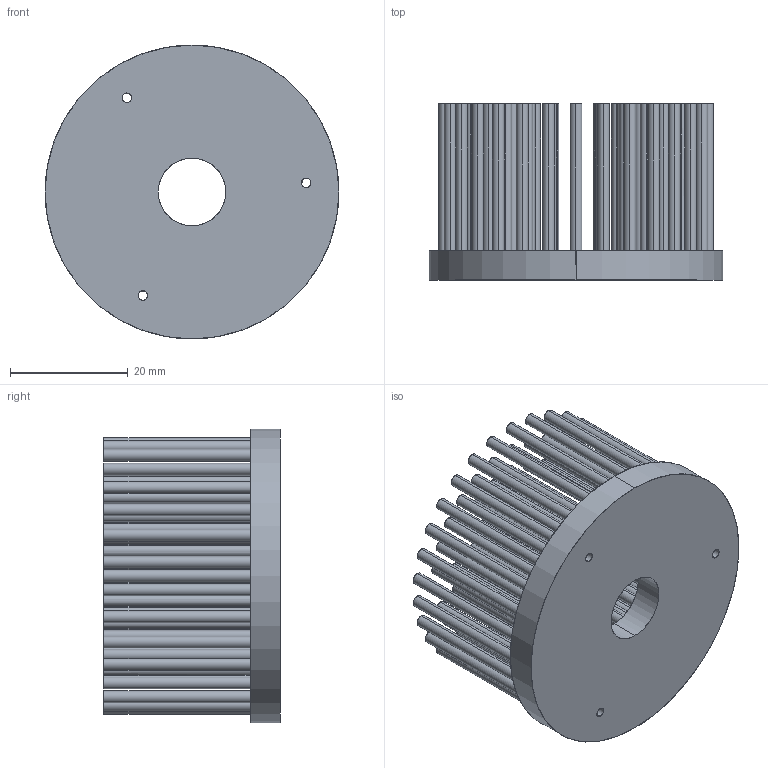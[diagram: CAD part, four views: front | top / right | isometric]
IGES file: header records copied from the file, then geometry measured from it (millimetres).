
Start section: SolidWorks IGES file using analytic representation for surfaces
Global section: file name: C:\Documents and Settings\Administrator\桌面\27-06-2012\M2\XSA-60-M2 (O50mm X 30mm).IGS,1; native system: 5HSolidWorks 2011; preprocessor: SolidWorks 2011; author: Administrator; date: 120627.165543; units: millimetre
Bounding box: 50 x 30 x 50 mm (x, y, z)
Surface area: 18886 mm2 (no closed solid volume)
Topology: 0 solids, 0 shells, 284 faces, 6818 edges, 6818 vertices
Faces by surface type: revolution 192, bspline 92
